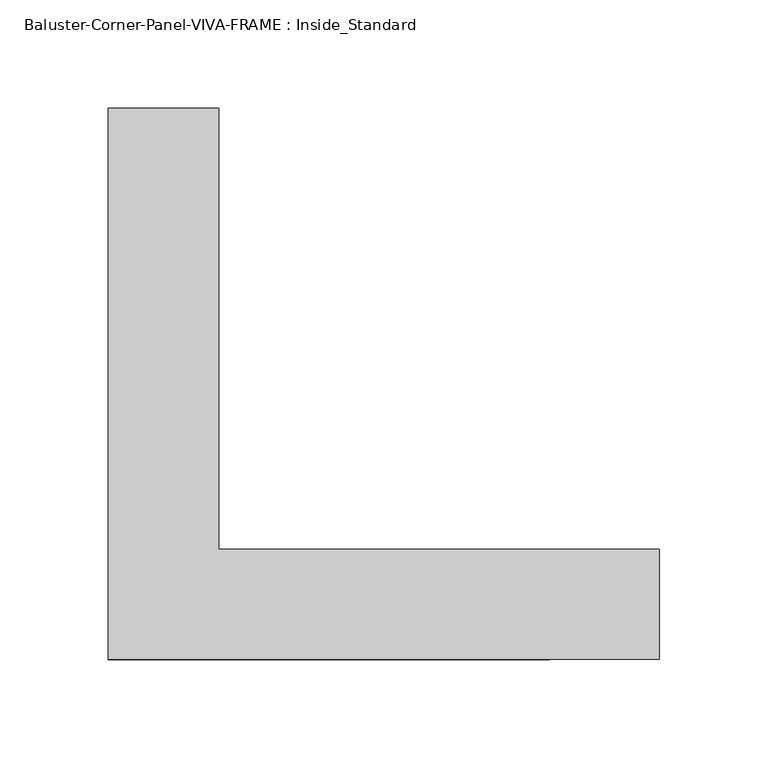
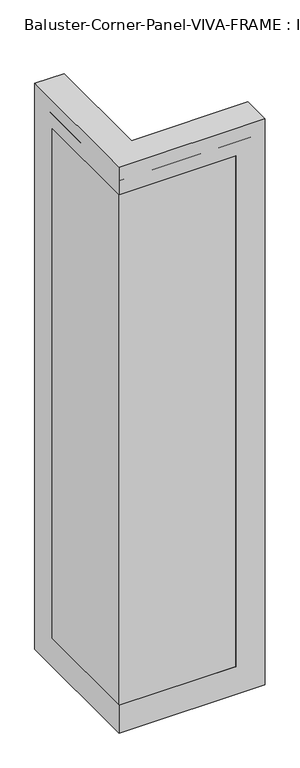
"""IFC4 building model written with IfcOpenShell, lengths in millimetres: railing geometry, Baluster-Corner-Panel-VIVA-FRAME : Inside_Standard."""

import ifcopenshell
import ifcopenshell.guid

model = None  # the IFC model being written
_history = None  # IfcOwnerHistory: only IFC2X3 demands one
_inside = {}  # id of a spatial element -> (the spatial element, [elements in it])
_under = {}  # id of a project, library or spatial element -> (it, [spatial elements below it])
_declared = {}  # id of a project -> (the project, [libraries it declares])
_typed = {}  # id of a type object -> (the type object, [elements of that type])
_made_of = {}  # id of a material, layer set ... -> (it, [elements and type objects made of it])


def new_model(schema):
    """Start an empty IFC model of exactly this schema.

    Asked for "IFC4X3", IfcOpenShell would pick the latest addendum, in which some entities
    have other attributes; the version numbers below select the first issue.
    IFC2X3 requires an IfcOwnerHistory on every rooted entity: one is made here for all.
    """
    global model, _history
    if schema == "IFC4X3":
        model = ifcopenshell.file(schema_version=(4, 3, 0, 0))
    else:
        model = ifcopenshell.file(schema=schema)
    _inside.clear()
    _under.clear()
    _declared.clear()
    _typed.clear()
    _made_of.clear()
    _history = None
    if model.schema == "IFC2X3":
        org = make("IfcOrganization", Name="unknown")
        user = make(
            "IfcPersonAndOrganization",
            ThePerson=make("IfcPerson", FamilyName="unknown"),
            TheOrganization=org,
        )
        app = make(
            "IfcApplication",
            ApplicationDeveloper=org,
            Version="unknown",
            ApplicationFullName="unknown",
            ApplicationIdentifier="unknown",
        )
        _history = make(
            "IfcOwnerHistory",
            OwningUser=user,
            OwningApplication=app,
            ChangeAction="ADDED",
            CreationDate=0,
        )
    return model


def make(cls, **values):
    """One entity of the class cls with the attributes given. An attribute that is None is left unset."""
    return model.create_entity(
        cls, **{name: value for name, value in values.items() if value is not None}
    )


def rooted(cls, **values):
    """An entity with a GlobalId (a new one), such as an element, a storey or a relation."""
    return make(cls, GlobalId=ifcopenshell.guid.new(), OwnerHistory=_history, **values)


def si_unit(unit_type, name, prefix=None):
    """IfcSIUnit, for example si_unit("LENGTHUNIT", "METRE", prefix="MILLI")."""
    return make("IfcSIUnit", UnitType=unit_type, Prefix=prefix, Name=name)


def assignment(units):
    """IfcUnitAssignment: the units of a project."""
    return None if units is None else make("IfcUnitAssignment", Units=units)


def point(xyz):
    """IfcCartesianPoint."""
    return None if xyz is None else make("IfcCartesianPoint", Coordinates=xyz)


def direction(xyz):
    """IfcDirection."""
    return None if xyz is None else make("IfcDirection", DirectionRatios=xyz)


def frame(location, z_axis=None, x_axis=None):
    """IfcAxis2Placement3D, a coordinate frame: its origin and axes. An axis left out is left unset."""
    return make(
        "IfcAxis2Placement3D",
        Location=point(location),
        Axis=direction(z_axis),
        RefDirection=direction(x_axis),
    )


def origin():
    """The frame at (0, 0, 0) with its axes left unset."""
    return frame((0.0, 0.0, 0.0))


def place(relative_to, where):
    """IfcLocalPlacement: puts the frame where relative to a parent placement (None: the world)."""
    return make(
        "IfcLocalPlacement", PlacementRelTo=relative_to, RelativePlacement=where
    )


def context(
    kind, dimensions, precision=None, world=None, true_north=None, identifier=None
):
    """IfcGeometricRepresentationContext, for example the 3D "Model" context."""
    return make(
        "IfcGeometricRepresentationContext",
        ContextIdentifier=identifier,
        ContextType=kind,
        CoordinateSpaceDimension=dimensions,
        Precision=precision,
        WorldCoordinateSystem=world,
        TrueNorth=true_north,
    )


def project(units=None, contexts=None):
    """IfcProject with its units and contexts."""
    return rooted(
        "IfcProject",
        Name="project",
        RepresentationContexts=contexts,
        UnitsInContext=assignment(units),
    )


def spatial(cls, under=None, at=None, **own):
    """A site, building, storey or space (cls), placed at a placement, below another one or the project."""
    s = rooted(cls, ObjectPlacement=at, **own)
    if under is not None:
        _under.setdefault(under.id(), (under, []))[1].append(s)
    return s


def polyline(points):
    """IfcPolyline through the points."""
    return make("IfcPolyline", Points=[point(p) for p in points])


def outline(outer, holes=None, kind="AREA"):
    """IfcArbitraryClosedProfileDef: a profile drawn as a closed curve; with holes, ...WithVoids."""
    if holes is None:
        return make("IfcArbitraryClosedProfileDef", ProfileType=kind, OuterCurve=outer)
    return make(
        "IfcArbitraryProfileDefWithVoids",
        ProfileType=kind,
        OuterCurve=outer,
        InnerCurves=holes,
    )


def extrude(swept, where, along, depth):
    """IfcExtrudedAreaSolid: the profile swept, set in the frame where, extruded along a direction by depth."""
    return make(
        "IfcExtrudedAreaSolid",
        SweptArea=swept,
        Position=where,
        ExtrudedDirection=direction(along),
        Depth=depth,
    )


def faces_of(points, faces, orient=None, outer=None):
    """IfcFace entities. A face is a list of loops; a loop is a list of indices into points, from 0.

    orient and outer hold one flag for each loop. By default every Orientation is true, the
    first loop of a face is its IfcFaceOuterBound and the others are IfcFaceBound.
    """
    made = []
    for i, loops in enumerate(faces):
        bounds = []
        for j, loop in enumerate(loops):
            is_outer = j == 0 if outer is None else outer[i][j]
            bounds.append(
                make(
                    "IfcFaceOuterBound" if is_outer else "IfcFaceBound",
                    Bound=make("IfcPolyLoop", Polygon=[points[k] for k in loop]),
                    Orientation=True if orient is None else orient[i][j],
                )
            )
        made.append(make("IfcFace", Bounds=bounds))
    return made


def faceted_brep(points, faces, orient=None, outer=None, voids=None):
    """IfcFacetedBrep: a solid bounded by flat faces; with voids (closed shells), ...WithVoids."""
    shared = [point(p) for p in points]
    hull = make("IfcClosedShell", CfsFaces=faces_of(shared, faces, orient, outer))
    if voids is None:
        return make("IfcFacetedBrep", Outer=hull)
    return make(
        "IfcFacetedBrepWithVoids",
        Outer=hull,
        Voids=[
            make(cls, CfsFaces=faces_of(shared, fs, o, b)) for cls, fs, o, b in voids
        ],
    )


def shape(context_of_items, identifier, shape_type, items):
    """IfcShapeRepresentation: the items that make up one representation, for example the "Body"."""
    return make(
        "IfcShapeRepresentation",
        ContextOfItems=context_of_items,
        RepresentationIdentifier=identifier,
        RepresentationType=shape_type,
        Items=items,
    )


def source(mapping_origin, context_of_items, identifier, shape_type, items):
    """IfcRepresentationMap: a shape defined once, which mapped items show again and again."""
    return make(
        "IfcRepresentationMap",
        MappingOrigin=mapping_origin,
        MappedRepresentation=shape(context_of_items, identifier, shape_type, items),
    )


def transform(
    local_origin,
    x_axis=None,
    y_axis=None,
    z_axis=None,
    scale=None,
    scale2=None,
    scale3=None,
    uniform=True,
):
    """IfcCartesianTransformationOperator3D, or its non-uniform kind. x_axis, y_axis, z_axis: its Axis1, 2, 3."""
    if uniform:
        return make(
            "IfcCartesianTransformationOperator3D",
            Axis1=direction(x_axis),
            Axis2=direction(y_axis),
            LocalOrigin=point(local_origin),
            Scale=scale,
            Axis3=direction(z_axis),
        )
    return make(
        "IfcCartesianTransformationOperator3DnonUniform",
        Axis1=direction(x_axis),
        Axis2=direction(y_axis),
        LocalOrigin=point(local_origin),
        Scale=scale,
        Axis3=direction(z_axis),
        Scale2=scale2,
        Scale3=scale3,
    )


def mapped(mapping_source, mapping_target):
    """IfcMappedItem: shows the shape of a source again, moved by a transform."""
    return make(
        "IfcMappedItem", MappingSource=mapping_source, MappingTarget=mapping_target
    )


def made_of(thing, what):
    """Note that an element or type object is made of a material, layer set ...; save() writes the relation."""
    if what is not None:
        _made_of.setdefault(what.id(), (what, []))[1].append(thing)
    return thing


def element(
    cls,
    number,
    at=None,
    inside=None,
    cuts=None,
    type_object=None,
    material=None,
    context=None,
    identifier="Body",
    shape_type=None,
    held_by="IfcProductDefinitionShape",
    body=None,
    shapes=None,
    **own,
):
    """One element of the class cls, such as IfcWall. Its Tag is "e" and its number.

    at: its placement. inside: the storey or other place that contains it. cuts: it is an
    opening in that element (IfcRelVoidsElement). A single representation is given by context,
    identifier, shape_type and body (its items); several are given by shapes. held_by: the class
    of the entity that holds the representations. save() writes the other relations.
    """
    e = rooted(cls, Tag="e%d" % number, ObjectPlacement=at, **own)
    if body is not None:
        shapes = [shape(context, identifier, shape_type, body)]
    if shapes is not None:
        e.Representation = make(held_by, Representations=shapes)
    if inside is not None:
        _inside.setdefault(inside.id(), (inside, []))[1].append(e)
    if cuts is not None:
        rooted(
            "IfcRelVoidsElement", RelatingBuildingElement=cuts, RelatedOpeningElement=e
        )
    if type_object is not None:
        _typed.setdefault(type_object.id(), (type_object, []))[1].append(e)
    return made_of(e, material)


def aggregate(whole, parts):
    """IfcRelAggregates: a whole, such as a stair, and the parts it consists of."""
    return rooted("IfcRelAggregates", RelatingObject=whole, RelatedObjects=parts)


def save(model, path):
    """Write the relations noted so far, then the file.

    IfcRelAggregates (storeys below a building ...), IfcRelContainedInSpatialStructure (elements
    in a storey), IfcRelDefinesByType, IfcRelAssociatesMaterial and IfcRelDeclares: one each for
    every whole, place, type object, material and project.
    """
    for whole, parts in _under.values():
        aggregate(whole, parts)
    for where, things in _inside.values():
        rooted(
            "IfcRelContainedInSpatialStructure",
            RelatedElements=things,
            RelatingStructure=where,
        )
    for kind, things in _typed.values():
        rooted("IfcRelDefinesByType", RelatedObjects=things, RelatingType=kind)
    for what, things in _made_of.values():
        rooted("IfcRelAssociatesMaterial", RelatedObjects=things, RelatingMaterial=what)
    for by, libraries in _declared.values():
        rooted("IfcRelDeclares", RelatingContext=by, RelatedDefinitions=libraries)
    model.write(path)


def baluster_corner_panel_viva_frame_inside_standard_882b99be(model_context):
    return source(origin(), model_context, "Body", "SolidModel", [
        faceted_brep([(0.0, 254.0, 76.4512), (0.0, 254.0, 1117.6), (50.8, 254.0, 1117.6), (50.8, 254.0, 76.4512), (0.0, 0.0, 127.2512), (0.0, 203.2, 127.2512), (0.0, 203.2, 1066.8), (0.0, 0.0, 1066.8), (0.0, 0.0, 1117.6), (0.0, 0.0, 76.4512), (254.0, 0.0, 76.4512), (254.0, 0.0, 1117.6), (203.2, 0.0, 1066.8), (203.2, 0.0, 127.2512), (254.0, 50.8, 76.4512), (254.0, 50.8, 1117.6), (50.8, 50.8, 1117.6), (50.8, 50.8, 1111.6056), (50.8, 248.0056, 1111.6056), (50.8, 248.0056, 82.4456), (50.8, 50.8, 82.4456), (50.8, 50.8, 76.4512), (248.0056, 50.8, 1111.6056), (248.0056, 19.9898, 1111.6056), (19.9898, 19.9898, 1111.6056), (19.9898, 248.0056, 1111.6056), (19.9898, 19.9898, 1066.8), (19.9898, 203.2, 1066.8), (19.9898, 203.2, 127.2512), (19.9898, 19.9898, 127.2512), (19.9898, 19.9898, 82.4456), (19.9898, 248.0056, 82.4456), (203.2, 19.9898, 1066.8), (248.0056, 50.8, 82.4456), (248.0056, 19.9898, 82.4456), (203.2, 19.9898, 127.2512)], [[[0, 1, 2, 3]], [[4, 5, 6, 7, 8, 1, 0, 9]], [[4, 9, 10, 11, 8, 7, 12, 13]], [[14, 15, 11, 10]], [[16, 17, 18, 19, 20, 21, 3, 2]], [[17, 22, 23, 24, 25, 18]], [[24, 26, 27, 28, 29, 30, 31, 25]], [[12, 7, 6, 27, 26, 32]], [[2, 1, 8, 11, 15, 16]], [[17, 16, 15, 14, 21, 20, 33, 22]], [[26, 24, 23, 34, 30, 29, 35, 32]], [[21, 14, 10, 9, 0, 3]], [[34, 23, 22, 33]], [[12, 32, 35, 13]], [[27, 6, 5, 28]], [[18, 25, 31, 19]], [[4, 13, 35, 29, 28, 5]], [[20, 19, 31, 30, 34, 33]]]),
        extrude(outline(polyline([(229.0, 0.0), (0.0, 0.0), (0.0, 229.0), (3.0, 229.0), (3.0, 3.0), (229.0, 3.0), (229.0, 0.0)])), frame((0.0, 0.0, 101.4512), z_axis=(0.0, 0.0, 1.0), x_axis=(1.0, 0.0, 0.0)), (0.0, 0.0, 1.0), 991.1488),
    ])


if __name__ == "__main__":
    model = new_model("IFC4")
    model_context = context("Model", 3, world=origin())
    ifc_project = project(units=[si_unit("LENGTHUNIT", "METRE", prefix="MILLI")], contexts=[model_context])
    site = spatial("IfcSite", under=ifc_project)
    building = spatial("IfcBuilding", under=site)
    placement = place(None, origin())
    baluster_corner_panel_viva_frame_inside_standard_shape = baluster_corner_panel_viva_frame_inside_standard_882b99be(model_context)
    element("IfcRailing", 1, ObjectType="Baluster-Corner-Panel-VIVA-FRAME : Inside_Standard", at=placement, inside=building, context=model_context, shape_type="MappedRepresentation", body=[
        mapped(baluster_corner_panel_viva_frame_inside_standard_shape, transform((0.0, 0.0, 0.0), x_axis=(1.0, 0.0, 0.0), y_axis=(0.0, 1.0, 0.0), z_axis=(0.0, 0.0, 1.0))),
    ])
    save(model, "model.ifc")
